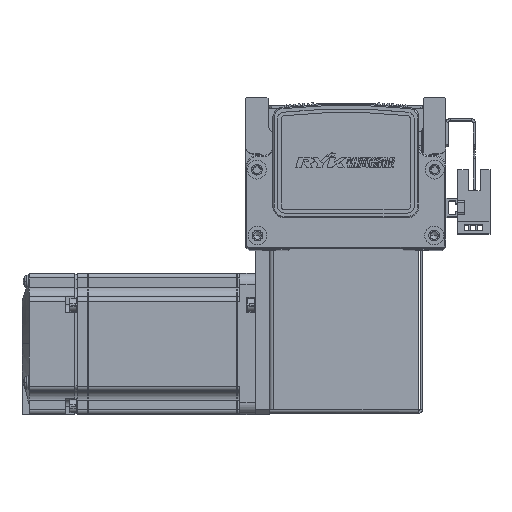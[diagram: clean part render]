
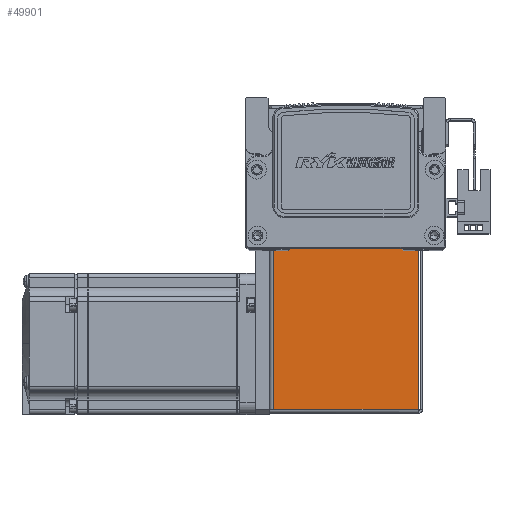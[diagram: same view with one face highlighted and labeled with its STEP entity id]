
A CAD part, top view. The second image highlights one B-rep face of the part: STEP entity #49901.
In plain terms, the highlighted planar face has unit normal (0, 0, 1) as drawn and (0, 0, -1) by its records, which use the part's own axes.
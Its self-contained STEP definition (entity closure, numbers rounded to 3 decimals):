
#1230 = EDGE_LOOP ( 'NONE', ( #15680, #15638, #15646, #15605 ) ) ;
#15605 = ORIENTED_EDGE ( 'NONE', *, *, #40315, .T. ) ;
#15638 = ORIENTED_EDGE ( 'NONE', *, *, #40239, .F. ) ;
#15646 = ORIENTED_EDGE ( 'NONE', *, *, #40224, .T. ) ;
#15680 = ORIENTED_EDGE ( 'NONE', *, *, #40263, .T. ) ;
#17276 = AXIS2_PLACEMENT_3D ( 'NONE', #42197, #42189, #42159 ) ;
#35652 = CARTESIAN_POINT ( 'NONE',  ( -30.793, 72.5, -35. ) ) ;
#35677 = CARTESIAN_POINT ( 'NONE',  ( 30.763, 0.737, -35. ) ) ;
#35740 = CARTESIAN_POINT ( 'NONE',  ( -30.793, 0.737, -35. ) ) ;
#35798 = CARTESIAN_POINT ( 'NONE',  ( 30.763, 72.5, -35. ) ) ;
#39563 = FACE_OUTER_BOUND ( 'NONE', #1230, .T. ) ;
#40224 = EDGE_CURVE ( 'NONE', #63658, #63576, #68764, .T. ) ;
#40239 = EDGE_CURVE ( 'NONE', #63658, #63566, #68792, .T. ) ;
#40263 = EDGE_CURVE ( 'NONE', #63634, #63566, #68754, .T. ) ;
#40315 = EDGE_CURVE ( 'NONE', #63576, #63634, #68845, .T. ) ;
#42159 = DIRECTION ( 'NONE',  ( 0., -1., 0. ) ) ;
#42172 = PLANE ( 'NONE',  #17276 ) ;
#42189 = DIRECTION ( 'NONE',  ( 0., 0., 1. ) ) ;
#42197 = CARTESIAN_POINT ( 'NONE',  ( 0., 0., -35. ) ) ;
#49901 = ADVANCED_FACE ( 'NONE', ( #39563 ), #42172, .F. ) ;
#63566 = VERTEX_POINT ( 'NONE', #35677 ) ;
#63576 = VERTEX_POINT ( 'NONE', #35652 ) ;
#63634 = VERTEX_POINT ( 'NONE', #35798 ) ;
#63658 = VERTEX_POINT ( 'NONE', #35740 ) ;
#68741 = VECTOR ( 'NONE', #70434, 1000. ) ;
#68754 = LINE ( 'NONE', #70458, #68755 ) ;
#68755 = VECTOR ( 'NONE', #70476, 1000. ) ;
#68764 = LINE ( 'NONE', #70443, #68741 ) ;
#68792 = LINE ( 'NONE', #70421, #68793 ) ;
#68793 = VECTOR ( 'NONE', #70425, 1000. ) ;
#68820 = VECTOR ( 'NONE', #70500, 1000. ) ;
#68845 = LINE ( 'NONE', #70466, #68820 ) ;
#70421 = CARTESIAN_POINT ( 'NONE',  ( 32.5, 0.737, -35. ) ) ;
#70425 = DIRECTION ( 'NONE',  ( 1., 0., 0. ) ) ;
#70434 = DIRECTION ( 'NONE',  ( 0., 1., 0. ) ) ;
#70443 = CARTESIAN_POINT ( 'NONE',  ( -30.793, 0., -35. ) ) ;
#70458 = CARTESIAN_POINT ( 'NONE',  ( 30.763, 72.5, -35. ) ) ;
#70466 = CARTESIAN_POINT ( 'NONE',  ( 0., 72.5, -35. ) ) ;
#70476 = DIRECTION ( 'NONE',  ( 0., -1., 0. ) ) ;
#70500 = DIRECTION ( 'NONE',  ( 1., 0., 0. ) ) ;
